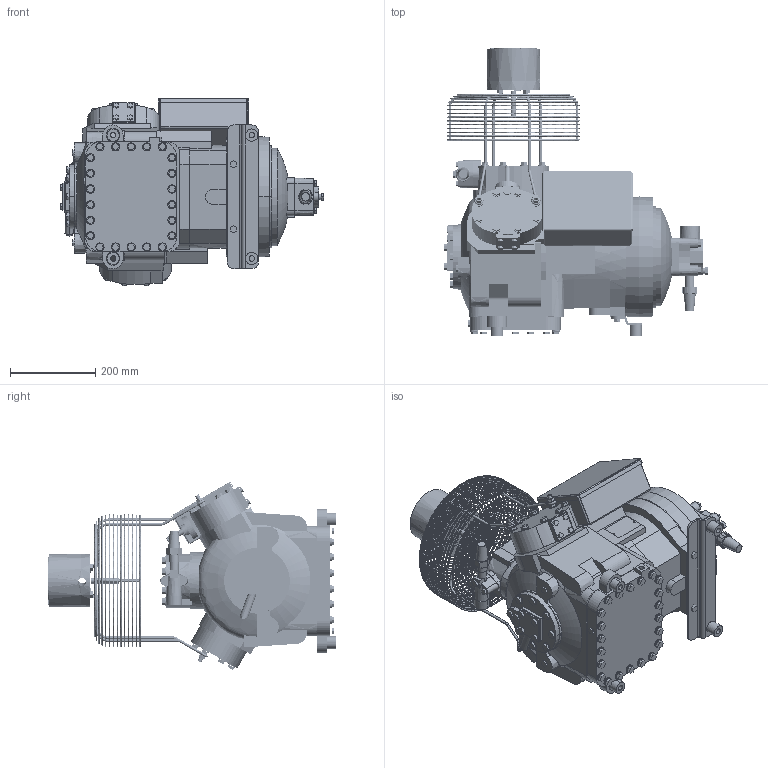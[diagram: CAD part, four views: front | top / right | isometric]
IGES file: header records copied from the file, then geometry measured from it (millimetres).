
Start section:  PTC IGES file: 06d61el9f_sv_6fn_sw0001.igs
Global section: file name: 06d61el9f_sv_6fn_sw0001.igs; native system: Pro/ENGINEER by Parametric Technology Corporation; preprocessor: 2001280; author: kannanb; organization: Unknown; date: 040123.152234; units: inch
Bounding box: 618.16 x 675.83 x 439.84 mm (x, y, z)
Surface area: 1688862.1 mm2 (no closed solid volume)
Topology: 0 solids, 0 shells, 1488 faces, 7094 edges, 7094 vertices
Faces by surface type: bspline 993, revolution 495
